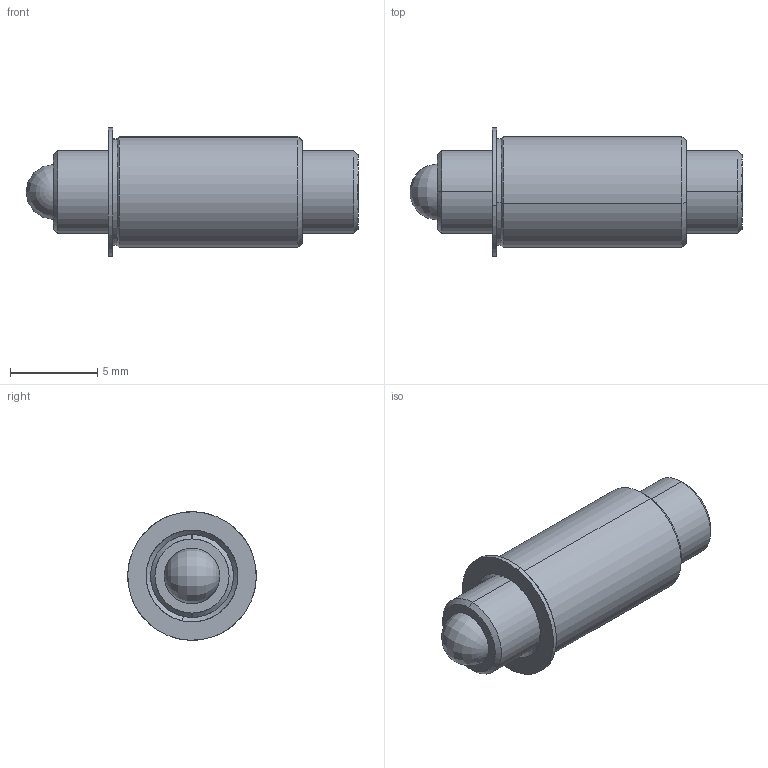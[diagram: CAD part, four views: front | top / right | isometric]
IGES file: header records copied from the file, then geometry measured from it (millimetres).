
Start section: SolidWorks IGES file using analytic representation for surfaces
Global section: file name: C:\Users\workpc\Desktop\KMA Solidworks\TSB187-100-750_437.IGS; native system: SolidWorks 2013; preprocessor: SolidWorks 2013; author: workpc; date: 130313.091617; units: inch
Bounding box: 19.03 x 7.37 x 7.37 mm (x, y, z)
Surface area: 603.9 mm2 (no closed solid volume)
Topology: 0 solids, 0 shells, 33 faces, 406 edges, 402 vertices
Faces by surface type: revolution 22, bspline 11
